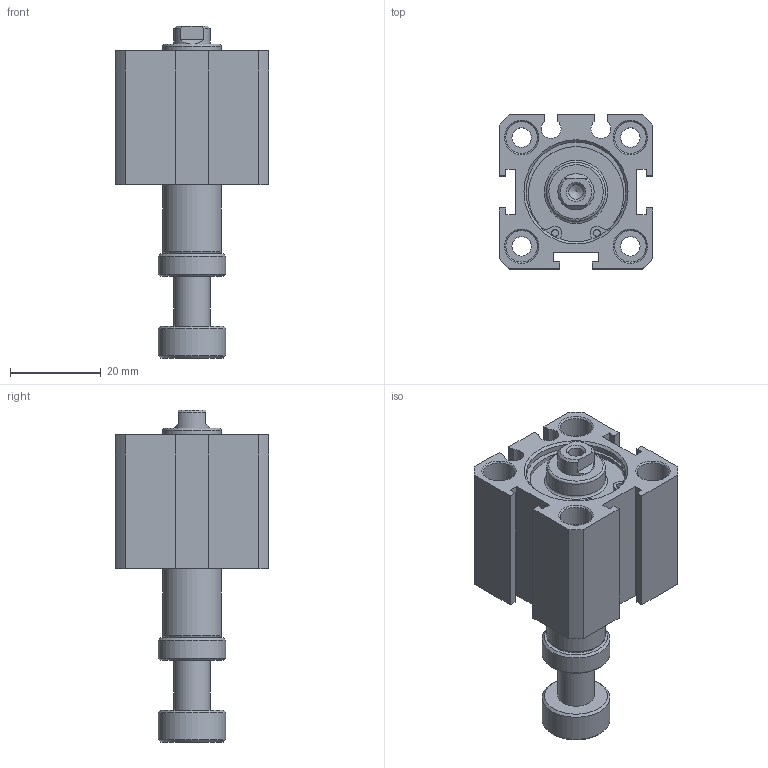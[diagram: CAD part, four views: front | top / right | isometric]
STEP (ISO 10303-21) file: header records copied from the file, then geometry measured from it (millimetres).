
FILE_DESCRIPTION((''),'2;1');
FILE_NAME('I:\3D電子目錄\氣缸\JDAR\JDAR\JDAR20\JDAR20x10.stp','2007-03-14T09:15:46',('662F206'),(''),'Autodesk Inventor 11','Autodesk Inventor 11','');
FILE_SCHEMA(('AUTOMOTIVE_DESIGN { 1 0 10303 214 1 1 1 1 }'));
Length unit declared in the file: millimetre
Products named in the file (3): JDAR20; R 形環 23
Assembly tree (3 placements, depth 2):
  JDAR20
    JDAR20
    R 形環 23  x2
Bounding box: 34 x 34 x 73.3 mm (x, y, z)
Volume: 30875.9 mm3; surface area: 13190.5 mm2
Topology: 3 solids, 3 shells, 148 faces, 336 edges, 218 vertices
Faces by surface type: plane 70, cylinder 49, cone 19, bspline 8, torus 2
Full cylindrical faces by diameter (mm): 1.5 x6, 4.3 x4, 7 x8, 8 x1, 13 x2, 15 x2, 22 x4, 23.2 x2
Entity records: 3721 total; most frequent: CARTESIAN_POINT 750, DIRECTION 626, ORIENTED_EDGE 494, AXIS2_PLACEMENT_3D 249, EDGE_CURVE 247, EDGE_LOOP 224, VERTEX_POINT 191, FACE_OUTER_BOUND 136
